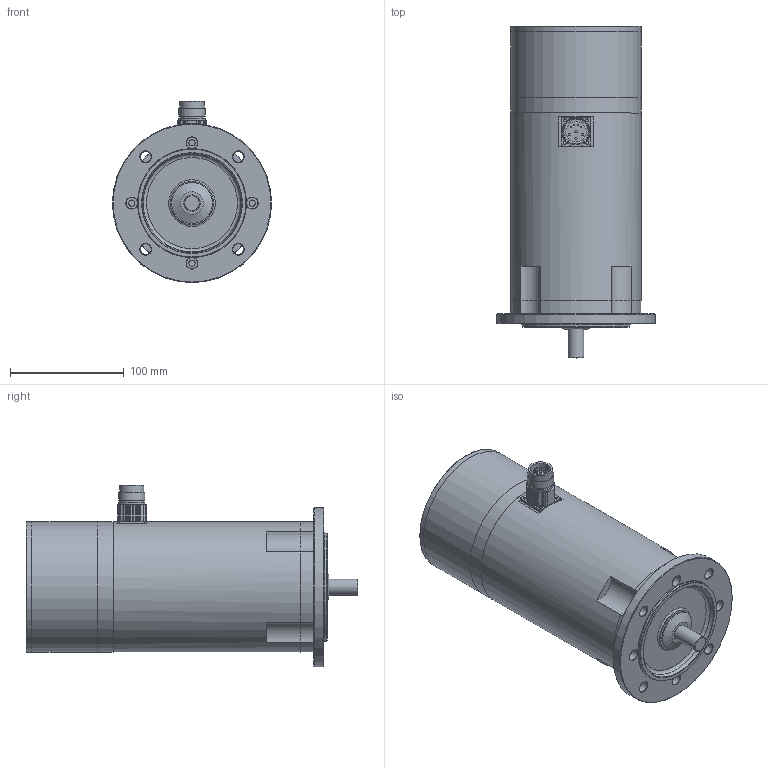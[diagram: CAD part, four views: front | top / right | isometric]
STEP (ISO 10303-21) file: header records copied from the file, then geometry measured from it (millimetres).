
FILE_DESCRIPTION(/* description */ (''),/* implementation_level */ '2;1');
FILE_NAME(/* name */ 'ksa_4x9e_mc',/* time_stamp */ '2007-03-13T14:31:26+01:00',/* author */ (''),/* organization */ (''),/* preprocessor_version */ 'ST-DEVELOPER v8',/* originating_system */ 'UNIGRAPHICS SOLUTIONS - UNIGRAPHICS 18.0',/* authorisation */ '');
FILE_SCHEMA (('AUTOMOTIVE_DESIGN { 1 2 10303 214 0 1 1 1 }'));
Length unit declared in the file: millimetre
Products named in the file (10): 06331201_0; DIN3760_org_A15x30x7_0; 014260_0; 064256_0; 089258_0; 114112_0; Gehaeuse SA 4 E_0; Rotor-SA 4 E_0; 114108_0; KSA444_E-MC_0
Assembly tree (9 placements, depth 2):
  KSA444_E-MC_0
    114108_0
    Rotor-SA 4 E_0
    Gehaeuse SA 4 E_0
    114112_0
    089258_0
    064256_0
    014260_0
    DIN3760_org_A15x30x7_0
    06331201_0
Bounding box: 140 x 292 x 159.5 mm (x, y, z)
Volume: 1491421.5 mm3; surface area: 293780.2 mm2
Topology: 9 solids, 9 shells, 392 faces, 970 edges, 625 vertices
Faces by surface type: cylinder 187, plane 91, cone 80, torus 22, sphere 8, bspline 4
Full cylindrical faces by diameter (mm): 1 x4, 2 x4, 2.7 x4, 3.013 x4, 3.3 x4, 3.432 x8, 4.5 x12, 5.5 x4, 6 x1, 6.5 x4, 8 x12, 9.5 x4, 10 x4, 13.52 x1, 13.9 x1, 14 x1, 15 x2, 15.3 x2, 18 x1, 20 x2, 21 x1, 21.5 x1, 23 x2, 24 x1, 27 x1, 30 x5, 35 x2, 36 x1, 38 x1, 53.5 x1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
Entity records: 10482 total; most frequent: DIRECTION 1924, CARTESIAN_POINT 1846, ORIENTED_EDGE 1304, AXIS2_PLACEMENT_3D 906, EDGE_LOOP 724, EDGE_CURVE 652, VERTEX_POINT 536, CIRCLE 508
